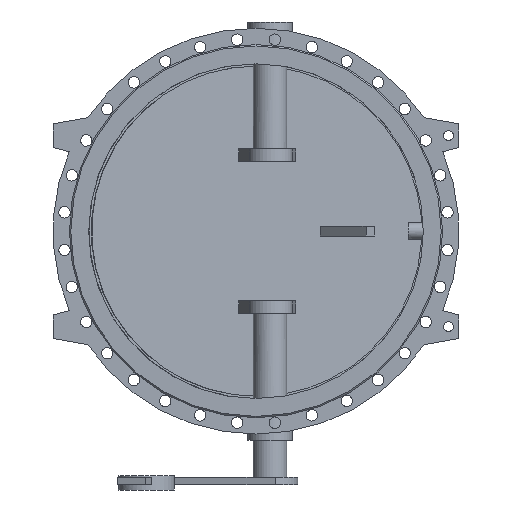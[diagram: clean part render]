
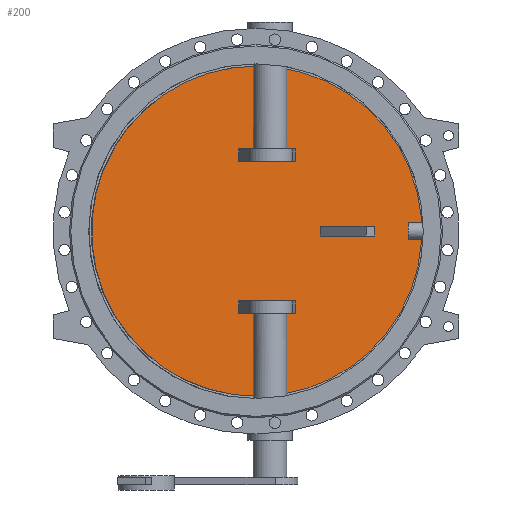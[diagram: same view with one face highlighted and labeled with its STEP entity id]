
A CAD part, front view. The second image highlights one B-rep face of the part: STEP entity #200.
In plain terms, the highlighted planar face has unit normal (0.131, -0.991, 0).
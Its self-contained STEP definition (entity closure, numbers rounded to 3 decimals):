
#200=ADVANCED_FACE('',(#1655,#1657,#1659,#1661),#1663,.T.);
#1655=FACE_BOUND('',#1656,.T.);
#1656=EDGE_LOOP('',(#3270));
#1657=FACE_BOUND('',#1658,.T.);
#1658=EDGE_LOOP('',(#3271,#3272,#3273,#3274));
#1659=FACE_BOUND('',#1660,.T.);
#1660=EDGE_LOOP('',(#3275,#3276,#3277,#3278));
#1661=FACE_BOUND('',#1662,.T.);
#1662=EDGE_LOOP('',(#3279,#3280,#3281,#3282));
#1663=PLANE('',#1664);
#1664=AXIS2_PLACEMENT_3D('',#1665,#1666,#1667);
#1665=CARTESIAN_POINT('',(-1.272,9.66,0.));
#1666=DIRECTION('',(0.131,-0.991,0.));
#1667=DIRECTION('',(0.,0.,-1.));
#3270=ORIENTED_EDGE('',*,*,#3919,.T.);
#3271=ORIENTED_EDGE('',*,*,#3923,.F.);
#3272=ORIENTED_EDGE('',*,*,#3924,.F.);
#3273=ORIENTED_EDGE('',*,*,#3925,.F.);
#3274=ORIENTED_EDGE('',*,*,#3926,.F.);
#3275=ORIENTED_EDGE('',*,*,#3927,.F.);
#3276=ORIENTED_EDGE('',*,*,#3928,.F.);
#3277=ORIENTED_EDGE('',*,*,#3929,.F.);
#3278=ORIENTED_EDGE('',*,*,#3930,.F.);
#3279=ORIENTED_EDGE('',*,*,#3931,.F.);
#3280=ORIENTED_EDGE('',*,*,#3932,.F.);
#3281=ORIENTED_EDGE('',*,*,#3933,.F.);
#3282=ORIENTED_EDGE('',*,*,#3934,.F.);
#3919=EDGE_CURVE('',#4280,#4280,#4281,.T.);
#3923=EDGE_CURVE('',#4288,#4289,#4290,.T.);
#3924=EDGE_CURVE('',#4291,#4288,#4292,.F.);
#3925=EDGE_CURVE('',#4293,#4291,#4294,.T.);
#3926=EDGE_CURVE('',#4289,#4293,#4295,.T.);
#3927=EDGE_CURVE('',#4296,#4297,#4298,.F.);
#3928=EDGE_CURVE('',#4299,#4296,#4300,.T.);
#3929=EDGE_CURVE('',#4301,#4299,#4302,.T.);
#3930=EDGE_CURVE('',#4297,#4301,#4303,.T.);
#3931=EDGE_CURVE('',#4304,#4305,#4306,.T.);
#3932=EDGE_CURVE('',#4307,#4304,#4308,.F.);
#3933=EDGE_CURVE('',#4309,#4307,#4310,.F.);
#3934=EDGE_CURVE('',#4305,#4309,#4311,.F.);
#4280=VERTEX_POINT('',#5451);
#4281=(BOUNDED_CURVE()B_SPLINE_CURVE(3,
(#5452,#5453,#5454,#5455,#5456,#5457,#5458,#5459,#5460,#5461,#5462,#5463,#5464,#5465,
#5466,#5467,#5468,#5469,#5470,#5471,#5472,#5473,#5474,#5475,#5476,#5477,#5478,#5479,
#5480,#5481,#5482,#5483,#5484,#5485,#5486,#5487,#5488,#5489,#5490,#5491,#5492,#5493,
#5494,#5495,#5496,#5497,#5498,#5499,#5500,#5501,#5502),
.UNSPECIFIED.,.T.,.F.)B_SPLINE_CURVE_WITH_KNOTS((4,1,1,1,1,1,1,1,1,1,1,1,1,1,1,1,
1,1,1,1,1,1,1,1,1,1,1,1,1,1,1,1,1,1,1,1,1,1,1,1,1,1,1,1,1,1,1,1,4),
(0.,0.021,0.042,0.063,0.084,
0.105,0.126,0.147,0.168,0.189,
0.211,0.232,0.253,0.274,0.295,
0.316,0.337,0.358,0.379,0.4,
0.421,0.442,0.463,0.484,0.505,
0.527,0.548,0.569,0.59,0.611,
0.632,0.653,0.674,0.695,0.716,
0.737,0.758,0.779,0.8,0.821,
0.842,0.863,0.885,0.906,0.927,
0.948,0.969,0.986,1.),
.UNSPECIFIED.)CURVE()GEOMETRIC_REPRESENTATION_ITEM()RATIONAL_B_SPLINE_CURVE((1.,
1.,1.,1.,1.,1.,1.,1.,1.,1.,1.,1.,1.,1.,1.,1.,1.,1.,1.,1.,1.,1.,1.,1.,1.,1.,1.,1.,
1.,1.,1.,1.,1.,1.,1.,1.,1.,1.,1.,1.,1.,1.,1.,1.,1.,1.,1.,1.,1.,1.,1.))REPRESENTATION_ITEM(
''));
#4288=VERTEX_POINT('',#5565);
#4289=VERTEX_POINT('',#5566);
#4290=LINE('',#5567,#5568);
#4291=VERTEX_POINT('',#5570);
#4292=LINE('',#5571,#5572);
#4293=VERTEX_POINT('',#5574);
#4294=LINE('',#5575,#5576);
#4295=LINE('',#5578,#5579);
#4296=VERTEX_POINT('',#5581);
#4297=VERTEX_POINT('',#5582);
#4298=LINE('',#5583,#5584);
#4299=VERTEX_POINT('',#5586);
#4300=LINE('',#5587,#5588);
#4301=VERTEX_POINT('',#5590);
#4302=LINE('',#5591,#5592);
#4303=LINE('',#5594,#5595);
#4304=VERTEX_POINT('',#5597);
#4305=VERTEX_POINT('',#5598);
#4306=LINE('',#5599,#5600);
#4307=VERTEX_POINT('',#5602);
#4308=LINE('',#5603,#5604);
#4309=VERTEX_POINT('',#5606);
#4310=LINE('',#5607,#5608);
#4311=LINE('',#5610,#5611);
#5451=CARTESIAN_POINT('',(2.611,10.171,592.));
#5452=CARTESIAN_POINT('',(2.611,10.171,592.));
#5453=CARTESIAN_POINT('',(-23.409,6.746,592.));
#5454=CARTESIAN_POINT('',(-75.508,-0.113,588.561));
#5455=CARTESIAN_POINT('',(-152.394,-10.236,573.144));
#5456=CARTESIAN_POINT('',(-226.675,-20.015,547.685));
#5457=CARTESIAN_POINT('',(-296.984,-29.271,512.622));
#5458=CARTESIAN_POINT('',(-362.029,-37.835,468.6));
#5459=CARTESIAN_POINT('',(-420.688,-45.557,416.384));
#5460=CARTESIAN_POINT('',(-471.934,-52.304,356.896));
#5461=CARTESIAN_POINT('',(-514.877,-57.957,291.176));
#5462=CARTESIAN_POINT('',(-548.769,-62.419,220.375));
#5463=CARTESIAN_POINT('',(-573.023,-65.612,145.729));
#5464=CARTESIAN_POINT('',(-587.217,-67.481,68.541));
#5465=CARTESIAN_POINT('',(-591.105,-67.993,-9.844));
#5466=CARTESIAN_POINT('',(-584.62,-67.139,-88.057));
#5467=CARTESIAN_POINT('',(-567.873,-64.934,-164.737));
#5468=CARTESIAN_POINT('',(-541.154,-61.417,-238.545));
#5469=CARTESIAN_POINT('',(-504.926,-56.647,-308.191));
#5470=CARTESIAN_POINT('',(-459.818,-50.709,-372.458));
#5471=CARTESIAN_POINT('',(-406.614,-43.704,-430.221));
#5472=CARTESIAN_POINT('',(-346.242,-35.756,-480.466));
#5473=CARTESIAN_POINT('',(-279.755,-27.003,-522.309));
#5474=CARTESIAN_POINT('',(-208.316,-17.598,-555.013));
#5475=CARTESIAN_POINT('',(-133.176,-7.705,-578.001));
#5476=CARTESIAN_POINT('',(-55.653,2.501,-590.868));
#5477=CARTESIAN_POINT('',(22.891,12.841,-593.387));
#5478=CARTESIAN_POINT('',(101.078,23.135,-585.513));
#5479=CARTESIAN_POINT('',(177.534,33.2,-567.386));
#5480=CARTESIAN_POINT('',(250.92,42.862,-539.328));
#5481=CARTESIAN_POINT('',(319.949,51.95,-501.833));
#5482=CARTESIAN_POINT('',(383.415,60.305,-455.564));
#5483=CARTESIAN_POINT('',(440.209,67.782,-401.332));
#5484=CARTESIAN_POINT('',(489.343,74.251,-340.091));
#5485=CARTESIAN_POINT('',(529.96,79.598,-272.913));
#5486=CARTESIAN_POINT('',(561.356,83.731,-200.972));
#5487=CARTESIAN_POINT('',(582.986,86.579,-125.526));
#5488=CARTESIAN_POINT('',(594.473,88.091,-47.889));
#5489=CARTESIAN_POINT('',(595.62,88.242,30.583));
#5490=CARTESIAN_POINT('',(586.405,87.029,108.523));
#5491=CARTESIAN_POINT('',(566.987,84.473,184.572));
#5492=CARTESIAN_POINT('',(537.704,80.617,257.403));
#5493=CARTESIAN_POINT('',(499.062,75.53,325.744));
#5494=CARTESIAN_POINT('',(451.733,69.299,388.397));
#5495=CARTESIAN_POINT('',(396.537,62.033,444.269));
#5496=CARTESIAN_POINT('',(334.456,53.859,492.362));
#5497=CARTESIAN_POINT('',(266.649,44.932,531.797));
#5498=CARTESIAN_POINT('',(194.096,35.381,562.018));
#5499=CARTESIAN_POINT('',(122.536,25.96,581.218));
#5500=CARTESIAN_POINT('',(58.198,17.489,590.338));
#5501=CARTESIAN_POINT('',(19.599,12.408,592.));
#5502=CARTESIAN_POINT('',(2.611,10.171,592.));
#5565=CARTESIAN_POINT('',(398.546,62.297,-17.5));
#5566=CARTESIAN_POINT('',(398.546,62.297,17.5));
#5567=CARTESIAN_POINT('',(398.546,62.297,-17.5));
#5568=VECTOR('',#5569,1.);
#5569=DIRECTION('',(0.,0.,1.));
#5570=CARTESIAN_POINT('',(230.,40.107,-17.5));
#5571=CARTESIAN_POINT('',(398.546,62.297,-17.5));
#5572=VECTOR('',#5573,1.);
#5573=DIRECTION('',(-0.991,-0.131,0.));
#5574=CARTESIAN_POINT('',(230.,40.107,17.5));
#5575=CARTESIAN_POINT('',(230.,40.107,17.5));
#5576=VECTOR('',#5577,1.);
#5577=DIRECTION('',(0.,0.,-1.));
#5578=CARTESIAN_POINT('',(398.546,62.297,17.5));
#5579=VECTOR('',#5580,1.);
#5580=DIRECTION('',(-0.991,-0.131,0.));
#5581=CARTESIAN_POINT('',(-62.127,1.648,-295.));
#5582=CARTESIAN_POINT('',(142.351,28.568,-295.));
#5583=CARTESIAN_POINT('',(142.351,28.568,-295.));
#5584=VECTOR('',#5585,1.);
#5585=DIRECTION('',(-0.991,-0.131,0.));
#5586=CARTESIAN_POINT('',(-62.127,1.648,-250.));
#5587=CARTESIAN_POINT('',(-62.127,1.648,-250.));
#5588=VECTOR('',#5589,1.);
#5589=DIRECTION('',(0.,0.,-1.));
#5590=CARTESIAN_POINT('',(142.351,28.568,-250.));
#5591=CARTESIAN_POINT('',(142.351,28.568,-250.));
#5592=VECTOR('',#5593,1.);
#5593=DIRECTION('',(-0.991,-0.131,0.));
#5594=CARTESIAN_POINT('',(142.351,28.568,-295.));
#5595=VECTOR('',#5596,1.);
#5596=DIRECTION('',(0.,0.,1.));
#5597=CARTESIAN_POINT('',(142.351,28.568,295.));
#5598=CARTESIAN_POINT('',(-62.127,1.648,295.));
#5599=CARTESIAN_POINT('',(142.351,28.568,295.));
#5600=VECTOR('',#5601,1.);
#5601=DIRECTION('',(-0.991,-0.131,0.));
#5602=CARTESIAN_POINT('',(142.351,28.568,250.));
#5603=CARTESIAN_POINT('',(142.351,28.568,295.));
#5604=VECTOR('',#5605,1.);
#5605=DIRECTION('',(0.,0.,-1.));
#5606=CARTESIAN_POINT('',(-62.127,1.648,250.));
#5607=CARTESIAN_POINT('',(142.351,28.568,250.));
#5608=VECTOR('',#5609,1.);
#5609=DIRECTION('',(-0.991,-0.131,0.));
#5610=CARTESIAN_POINT('',(-62.127,1.648,250.));
#5611=VECTOR('',#5612,1.);
#5612=DIRECTION('',(0.,0.,1.));
